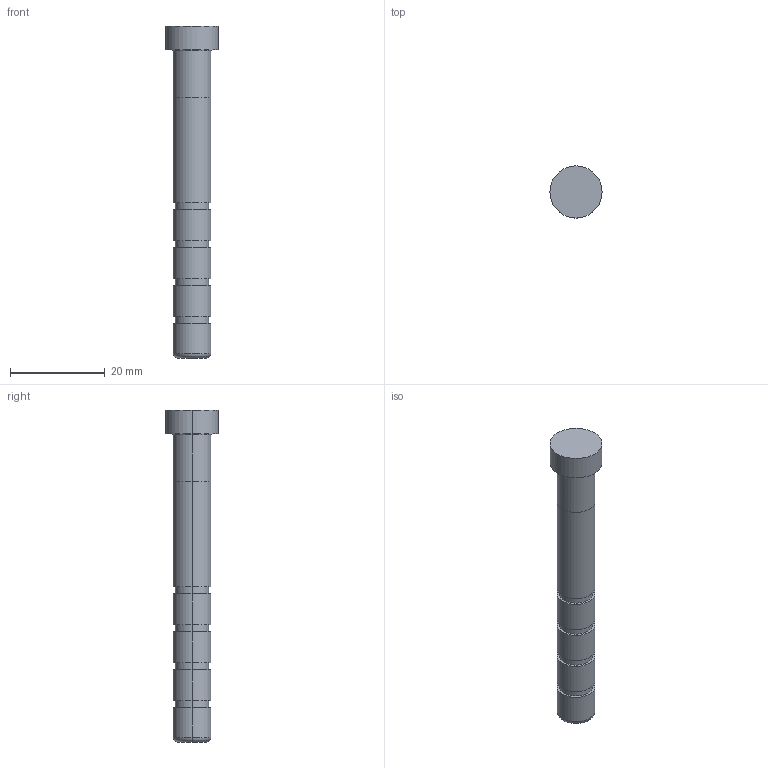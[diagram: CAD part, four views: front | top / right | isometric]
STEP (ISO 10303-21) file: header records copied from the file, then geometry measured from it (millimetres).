
FILE_DESCRIPTION(/* description */ (''),/* implementation_level */ '2;1');
FILE_NAME(/* name */ '3d_sgoh8-70_05214_r00.stp',/* time_stamp */ '2011-01-10T14:11:07+09:00',/* author */ ('MISUMI'),/* organization */ (''),/* preprocessor_version */ 'ST-DEVELOPER v11',/* originating_system */ 'UGS - NX 5.0',/* authorisation */ '');
FILE_SCHEMA (('CONFIG_CONTROL_DESIGN'));
Length unit declared in the file: millimetre
Products named in the file (1): 3d_sgoh8-70_05214_r00
Bounding box: 11 x 11 x 70 mm (x, y, z)
Volume: 3667 mm3; surface area: 2058 mm2
Topology: 1 solids, 1 shells, 37 faces, 72 edges, 46 vertices
Faces by surface type: cylinder 22, plane 11, torus 4
Entity records: 1054 total; most frequent: DIRECTION 198, CARTESIAN_POINT 156, ORIENTED_EDGE 144, AXIS2_PLACEMENT_3D 88, EDGE_CURVE 72, CIRCLE 50, EDGE_LOOP 46, VERTEX_POINT 46
